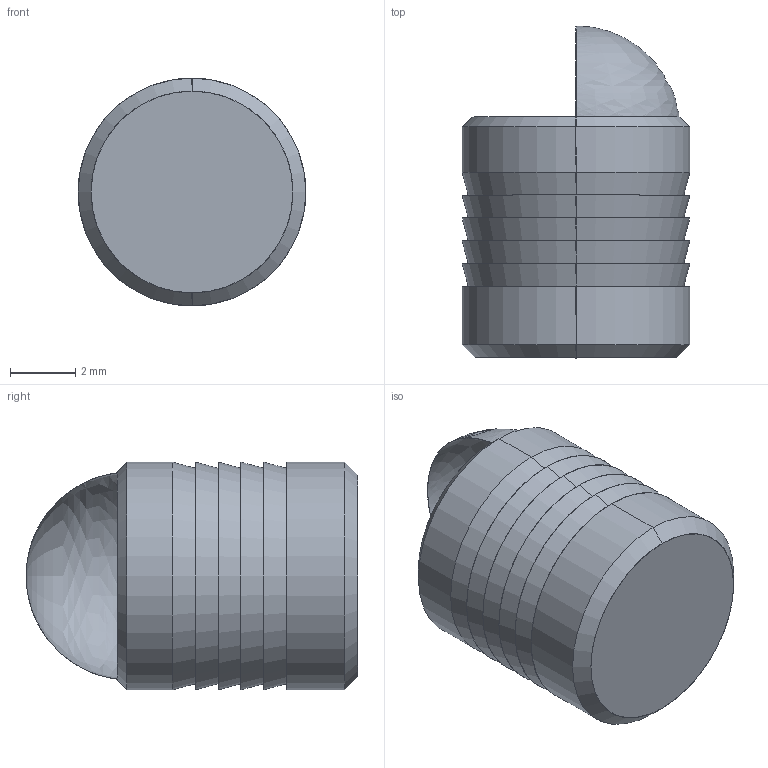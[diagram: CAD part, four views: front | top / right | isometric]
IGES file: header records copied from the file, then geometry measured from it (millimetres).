
Start section: SolidWorks IGES file using analytic representation for surfaces
Global section: file name: C:\Users\IanO\Desktop\P0190_v2\P0190_v2_20230321_IGES\P0190.070-A2-A2.igs; native system: SolidWorks 2019; preprocessor: SolidWorks 2019; author: IanO; date: 231219.161540; units: millimetre
Bounding box: 7 x 10.2 x 7 mm (x, y, z)
Surface area: 409.9 mm2 (no closed solid volume)
Topology: 0 solids, 0 shells, 28 faces, 440 edges, 437 vertices
Faces by surface type: revolution 22, bspline 6
